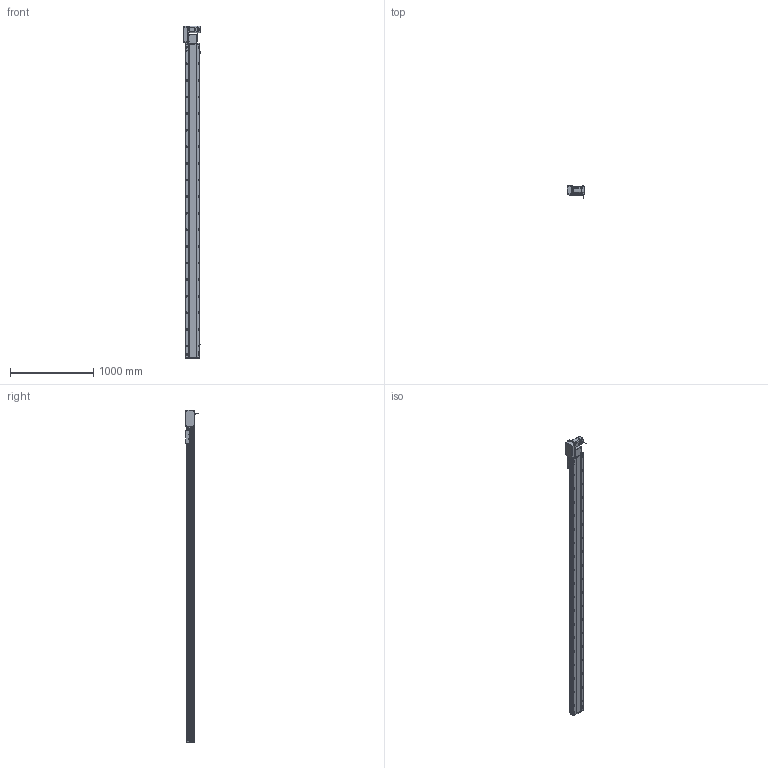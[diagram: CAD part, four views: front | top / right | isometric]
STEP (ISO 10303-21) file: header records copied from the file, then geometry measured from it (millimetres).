
FILE_DESCRIPTION (( 'STEP AP214' ), '1' );
FILE_NAME ('RTB17S-XX-3500-L-M75-C4.STEP', '2025-12-12T00:27:49', ( '' ), ( '' ), 'SwSTEP 2.0', 'SolidWorks 2018', '' );
FILE_SCHEMA (( 'AUTOMOTIVE_DESIGN' ));
Length unit declared in the file: millimetre
Products named in the file (15): RTB17S-賑釱^RTB17S-XX-XX-L-M75-C4; RTB17S-L-007奻裔^RTB17S-XX-XX-L-M75-C4; EE672^RTB17S-XX-XX-L-M75-C4; RTB22S-GY-017P^RTB17S-L-々湍釱蚾饜-750W_RTB17S-XX-XX-L-M75-C4; RTB22S-GY-008-M75--萇儂啣^RTB17S-L-々湍釱蚾饜-750W_RTB17S-XX-XX-L-M75-C4; RTB22S-GY-018P^RTB17S-L-々湍釱蚾饜-750W_RTB17S-XX-XX-L-M75-C4; RTH13-BL-012覜茼え俋离^RTB17S-賑釱_RTB17S-XX-XX-L-M75-C4; RTB22S-GY-005P^RTB17S-L-々湍釱蚾饜-750W_RTB17S-XX-XX-L-M75-C4; RMP17S-L-014-T20-P75--々湍釱^RTB17S-L-々湍釱蚾饜-750W_RTB17S-XX-XX-L-M75-C4; RTB17S-XX-3500-L-M75-C4; RTB17S-L-々湍釱蚾饜-750W^RTB17S-XX-XX-L-M75-C4; RTB17-R-011菁釱^RTB17S-XX-XX-L-M75-C4; RTB17S-L-004-賑釱^RTB17S-賑釱_RTB17S-XX-XX-L-M75-C4; RTB17S-L-001-耜醱啣^RTB17S-XX-XX-L-M75-C4; 750W萇儂^RTB17S-XX-XX-L-M75-C4
Assembly tree (17 placements, depth 3):
  RTB17S-XX-3500-L-M75-C4
    RTB17-R-011菁釱^RTB17S-XX-XX-L-M75-C4
    EE672^RTB17S-XX-XX-L-M75-C4  x3
    RTB17S-L-001-耜醱啣^RTB17S-XX-XX-L-M75-C4
    RTB17S-賑釱^RTB17S-XX-XX-L-M75-C4
      RTB17S-L-004-賑釱^RTB17S-賑釱_RTB17S-XX-XX-L-M75-C4
      RTH13-BL-012覜茼え俋离^RTB17S-賑釱_RTB17S-XX-XX-L-M75-C4
    RTB17S-L-007奻裔^RTB17S-XX-XX-L-M75-C4
    750W萇儂^RTB17S-XX-XX-L-M75-C4
    RTB17S-L-々湍釱蚾饜-750W^RTB17S-XX-XX-L-M75-C4
      RMP17S-L-014-T20-P75--々湍釱^RTB17S-L-々湍釱蚾饜-750W_RTB17S-XX-XX-L-M75-C4
      RTB22S-GY-005P^RTB17S-L-々湍釱蚾饜-750W_RTB17S-XX-XX-L-M75-C4
      RTB22S-GY-017P^RTB17S-L-々湍釱蚾饜-750W_RTB17S-XX-XX-L-M75-C4  x2
      RTB22S-GY-008-M75--萇儂啣^RTB17S-L-々湍釱蚾饜-750W_RTB17S-XX-XX-L-M75-C4
      RTB22S-GY-018P^RTB17S-L-々湍釱蚾饜-750W_RTB17S-XX-XX-L-M75-C4
Bounding box: 210.4 x 152.7 x 3999 mm (x, y, z)
Volume: 27826415.1 mm3; surface area: 5142641.4 mm2
Topology: 17 solids, 17 shells, 2297 faces, 6484 edges, 4202 vertices
Faces by surface type: plane 996, cylinder 885, bspline 294, cone 110, sphere 8, torus 4
Entity records: 68086 total; most frequent: CARTESIAN_POINT 20348, ORIENTED_EDGE 9812, DIRECTION 9032, EDGE_CURVE 4906, AXIS2_PLACEMENT_3D 3222, VERTEX_POINT 3206, VECTOR 2588, LINE 2588
